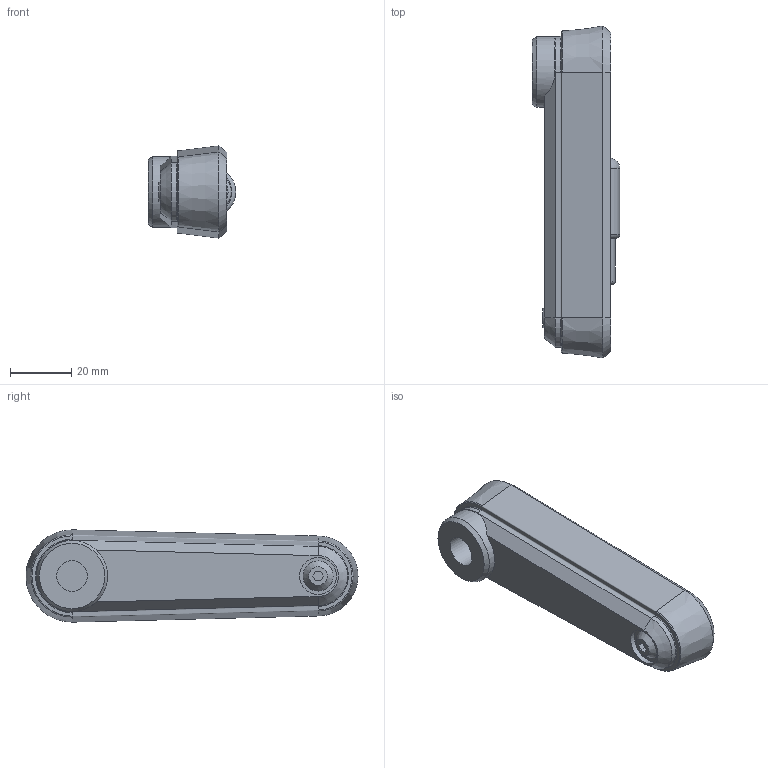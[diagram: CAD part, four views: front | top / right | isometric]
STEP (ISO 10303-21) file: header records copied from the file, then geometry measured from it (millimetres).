
FILE_DESCRIPTION( ( 'STEP AP203' ), '1' );
FILE_NAME( 'C:/Temp/Ganter_Step_05_03_2020/data/1_3/gn_472_3/Cranked handle with retractable handle GN 472.3-80-B10-SR (unactivated).stp', '2020-03-05T10:45:48', ( 'License CC BY-ND 4.0' ), ( 'CADENAS' ), ' ', 'PARTsolutions', ' ' );
FILE_SCHEMA( ( 'CONFIG_CONTROL_DESIGN' ) );
Length unit declared in the file: millimetre
Products named in the file (3): Cranked handle with retractable handle GN 472.3-80-B10-SR (unactivated); _Cranked handle with retractable handle GN 472.3-80-B10-SR (0)-1; _Cranked handle with retractable handle GN 472.3-80-B10-SR (0)-2
Assembly tree (2 placements, depth 2):
  Cranked handle with retractable handle GN 472.3-80-B10-SR (unactivated)
    _Cranked handle with retractable handle GN 472.3-80-B10-SR (0)-1
    _Cranked handle with retractable handle GN 472.3-80-B10-SR (0)-2
Bounding box: 28.5 x 108 x 30 mm (x, y, z)
Volume: 42922.4 mm3; surface area: 17750.2 mm2
Topology: 2 solids, 3 shells, 96 faces, 228 edges, 148 vertices
Faces by surface type: plane 44, cylinder 28, torus 11, cone 10, bspline 2, sphere 1
Full cylindrical faces by diameter (mm): 3 x2, 8 x1, 9.5 x1, 10 x1, 12 x1, 13 x1, 16 x1, 16.02 x1, 20 x2, 23 x1
Entity records: 2866 total; most frequent: CARTESIAN_POINT 644, DIRECTION 444, ORIENTED_EDGE 404, EDGE_CURVE 202, AXIS2_PLACEMENT_3D 181, VERTEX_POINT 143, EDGE_LOOP 130, FACE_OUTER_BOUND 113
